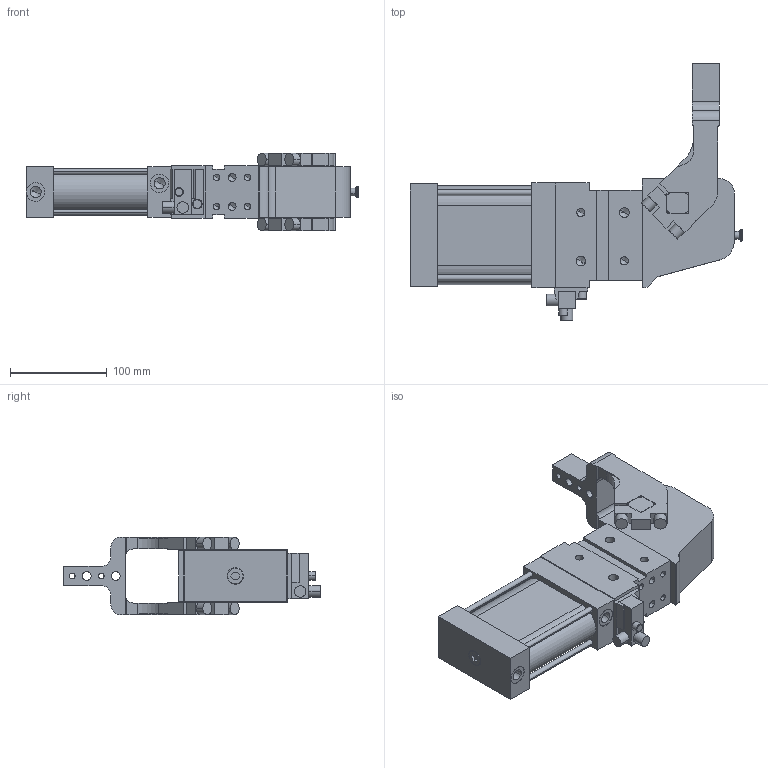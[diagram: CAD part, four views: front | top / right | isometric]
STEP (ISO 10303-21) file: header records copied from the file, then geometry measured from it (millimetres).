
FILE_DESCRIPTION (( 'STEP AP214' ), '1' );
FILE_NAME ('AKUHV63-Z01W12.STEP', '2026-07-07T17:37:20', ( '' ), ( '' ), 'SwSTEP 2.0', 'SolidWorks 2019', '' );
FILE_SCHEMA (( 'AUTOMOTIVE_DESIGN' ));
Length unit declared in the file: millimetre
Products named in the file (3): AKUHV63-Z01W12; 63-Z01; AKUHV63-Z00W12
Assembly tree (2 placements, depth 2):
  AKUHV63-Z01W12
    AKUHV63-Z00W12
    63-Z01
Bounding box: 343 x 265.5 x 80 mm (x, y, z)
Volume: 1782979.3 mm3; surface area: 177343.8 mm2
Topology: 2 solids, 3 shells, 371 faces, 964 edges, 591 vertices
Faces by surface type: plane 167, cylinder 132, cone 60, torus 12
Entity records: 11233 total; most frequent: CARTESIAN_POINT 2050, DIRECTION 1951, ORIENTED_EDGE 1836, EDGE_CURVE 918, AXIS2_PLACEMENT_3D 682, VERTEX_POINT 591, LINE 587, VECTOR 587
